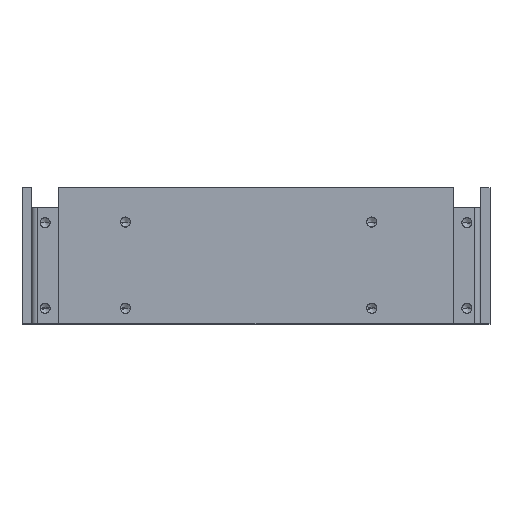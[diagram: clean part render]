
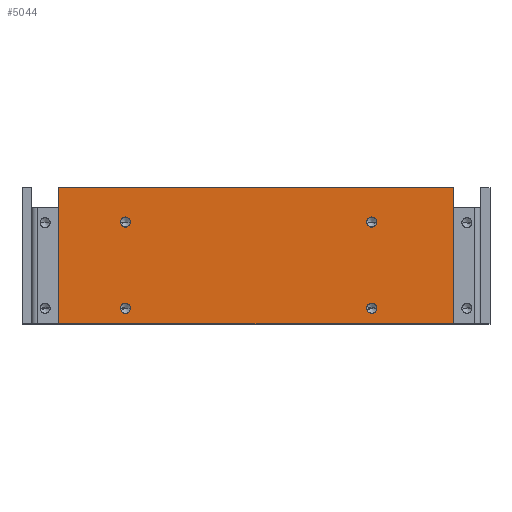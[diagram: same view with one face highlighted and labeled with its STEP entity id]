
A CAD part, top view. The second image highlights one B-rep face of the part: STEP entity #5044.
In plain terms, the highlighted planar face has unit normal (0, 0, 1).
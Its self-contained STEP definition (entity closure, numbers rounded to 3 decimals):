
#97 = ORIENTED_EDGE ( 'NONE', *, *, #6554, .T. ) ;
#116 = DIRECTION ( 'NONE',  ( 1., 0., 0. ) ) ;
#165 = VECTOR ( 'NONE', #5381, 1000. ) ;
#221 = EDGE_CURVE ( 'NONE', #658, #10466, #4469, .T. ) ;
#342 = CIRCLE ( 'NONE', #8468, 0.825 ) ;
#378 = EDGE_CURVE ( 'NONE', #6541, #6681, #2196, .T. ) ;
#424 = VERTEX_POINT ( 'NONE', #6625 ) ;
#658 = VERTEX_POINT ( 'NONE', #4552 ) ;
#1041 = DIRECTION ( 'NONE',  ( 1., 0., 0. ) ) ;
#1053 = CARTESIAN_POINT ( 'NONE',  ( 0., -6.2, 38. ) ) ;
#1064 = CIRCLE ( 'NONE', #4583, 0.825 ) ;
#1066 = AXIS2_PLACEMENT_3D ( 'NONE', #9721, #1820, #7172 ) ;
#1255 = EDGE_CURVE ( 'NONE', #9435, #9432, #6976, .T. ) ;
#1522 = CARTESIAN_POINT ( 'NONE',  ( -22.025, -5.6, 38. ) ) ;
#1524 = EDGE_LOOP ( 'NONE', ( #10629, #3521 ) ) ;
#1595 = DIRECTION ( 'NONE',  ( 1., 0., 0. ) ) ;
#1754 = VERTEX_POINT ( 'NONE', #10449 ) ;
#1820 = DIRECTION ( 'NONE',  ( 0., 0., 1. ) ) ;
#1863 = CARTESIAN_POINT ( 'NONE',  ( -32., 0., 38. ) ) ;
#2020 = AXIS2_PLACEMENT_3D ( 'NONE', #3092, #2218, #7272 ) ;
#2037 = FACE_BOUND ( 'NONE', #9831, .T. ) ;
#2103 = EDGE_CURVE ( 'NONE', #8664, #11122, #9727, .T. ) ;
#2196 = LINE ( 'NONE', #7202, #2821 ) ;
#2218 = DIRECTION ( 'NONE',  ( 0., 0., 1. ) ) ;
#2268 = AXIS2_PLACEMENT_3D ( 'NONE', #4506, #9583, #1041 ) ;
#2298 = EDGE_CURVE ( 'NONE', #6681, #1754, #3949, .T. ) ;
#2322 = CIRCLE ( 'NONE', #11161, 0.825 ) ;
#2388 = DIRECTION ( 'NONE',  ( 1., 0., 0. ) ) ;
#2584 = DIRECTION ( 'NONE',  ( 1., 0., 0. ) ) ;
#2821 = VECTOR ( 'NONE', #9865, 1000. ) ;
#2859 = VECTOR ( 'NONE', #10989, 1000. ) ;
#2884 = ORIENTED_EDGE ( 'NONE', *, *, #8443, .F. ) ;
#3092 = CARTESIAN_POINT ( 'NONE',  ( -21.2, -19.6, 38. ) ) ;
#3165 = ORIENTED_EDGE ( 'NONE', *, *, #378, .F. ) ;
#3177 = ORIENTED_EDGE ( 'NONE', *, *, #221, .F. ) ;
#3521 = ORIENTED_EDGE ( 'NONE', *, *, #9705, .F. ) ;
#3642 = VECTOR ( 'NONE', #4160, 1000. ) ;
#3767 = FACE_BOUND ( 'NONE', #8747, .T. ) ;
#3770 = AXIS2_PLACEMENT_3D ( 'NONE', #10791, #7955, #10851 ) ;
#3802 = ORIENTED_EDGE ( 'NONE', *, *, #2298, .F. ) ;
#3949 = LINE ( 'NONE', #7333, #2859 ) ;
#3988 = LINE ( 'NONE', #10150, #3642 ) ;
#4022 = VERTEX_POINT ( 'NONE', #8488 ) ;
#4160 = DIRECTION ( 'NONE',  ( 0., 1., 0. ) ) ;
#4207 = CARTESIAN_POINT ( 'NONE',  ( 18.8, -5.6, 38. ) ) ;
#4295 = EDGE_CURVE ( 'NONE', #424, #5483, #5962, .T. ) ;
#4469 = CIRCLE ( 'NONE', #2268, 0.825 ) ;
#4497 = DIRECTION ( 'NONE',  ( 0., 0., 1. ) ) ;
#4506 = CARTESIAN_POINT ( 'NONE',  ( 18.8, -5.6, 38. ) ) ;
#4510 = EDGE_LOOP ( 'NONE', ( #9720, #9903 ) ) ;
#4552 = CARTESIAN_POINT ( 'NONE',  ( 17.975, -5.6, 38. ) ) ;
#4583 = AXIS2_PLACEMENT_3D ( 'NONE', #4207, #5219, #1595 ) ;
#4588 = ORIENTED_EDGE ( 'NONE', *, *, #7874, .F. ) ;
#4868 = CARTESIAN_POINT ( 'NONE',  ( -21.2, -5.6, 38. ) ) ;
#4971 = CARTESIAN_POINT ( 'NONE',  ( -20.375, -5.6, 38. ) ) ;
#5044 = ADVANCED_FACE ( 'NONE', ( #5595, #2037, #5503, #3767, #6300 ), #6357, .T. ) ;
#5219 = DIRECTION ( 'NONE',  ( 0., 0., 1. ) ) ;
#5381 = DIRECTION ( 'NONE',  ( 1., 0., 0. ) ) ;
#5483 = VERTEX_POINT ( 'NONE', #6342 ) ;
#5503 = FACE_BOUND ( 'NONE', #4510, .T. ) ;
#5595 = FACE_BOUND ( 'NONE', #1524, .T. ) ;
#5708 = CARTESIAN_POINT ( 'NONE',  ( 32., -22.1, 38. ) ) ;
#5864 = DIRECTION ( 'NONE',  ( 0., 0., 1. ) ) ;
#5962 = CIRCLE ( 'NONE', #3770, 0.825 ) ;
#6046 = CARTESIAN_POINT ( 'NONE',  ( -32., -22.1, 38. ) ) ;
#6192 = CARTESIAN_POINT ( 'NONE',  ( -22.025, -19.6, 38. ) ) ;
#6272 = CARTESIAN_POINT ( 'NONE',  ( 18.8, -19.6, 38. ) ) ;
#6300 = FACE_OUTER_BOUND ( 'NONE', #9035, .T. ) ;
#6342 = CARTESIAN_POINT ( 'NONE',  ( 17.975, -19.6, 38. ) ) ;
#6357 = PLANE ( 'NONE',  #9460 ) ;
#6541 = VERTEX_POINT ( 'NONE', #5708 ) ;
#6554 = EDGE_CURVE ( 'NONE', #6541, #4022, #3988, .T. ) ;
#6625 = CARTESIAN_POINT ( 'NONE',  ( 19.625, -19.6, 38. ) ) ;
#6681 = VERTEX_POINT ( 'NONE', #6046 ) ;
#6716 = CARTESIAN_POINT ( 'NONE',  ( -21.2, -19.6, 38. ) ) ;
#6976 = CIRCLE ( 'NONE', #2020, 0.825 ) ;
#7168 = EDGE_CURVE ( 'NONE', #10466, #658, #1064, .T. ) ;
#7172 = DIRECTION ( 'NONE',  ( 1., 0., 0. ) ) ;
#7202 = CARTESIAN_POINT ( 'NONE',  ( 0., -22.1, 38. ) ) ;
#7272 = DIRECTION ( 'NONE',  ( 1., 0., 0. ) ) ;
#7333 = CARTESIAN_POINT ( 'NONE',  ( -32., -6.2, 38. ) ) ;
#7463 = CARTESIAN_POINT ( 'NONE',  ( 19.625, -5.6, 38. ) ) ;
#7874 = EDGE_CURVE ( 'NONE', #9432, #9435, #342, .T. ) ;
#7955 = DIRECTION ( 'NONE',  ( 0., 0., 1. ) ) ;
#8259 = DIRECTION ( 'NONE',  ( 0., 0., 1. ) ) ;
#8443 = EDGE_CURVE ( 'NONE', #1754, #4022, #9814, .T. ) ;
#8468 = AXIS2_PLACEMENT_3D ( 'NONE', #6716, #5864, #2584 ) ;
#8488 = CARTESIAN_POINT ( 'NONE',  ( 32., 0., 38. ) ) ;
#8664 = VERTEX_POINT ( 'NONE', #4971 ) ;
#8742 = DIRECTION ( 'NONE',  ( 0., 0., 1. ) ) ;
#8747 = EDGE_LOOP ( 'NONE', ( #9089, #3177 ) ) ;
#9035 = EDGE_LOOP ( 'NONE', ( #97, #2884, #3802, #3165 ) ) ;
#9089 = ORIENTED_EDGE ( 'NONE', *, *, #7168, .F. ) ;
#9114 = AXIS2_PLACEMENT_3D ( 'NONE', #4868, #4497, #2388 ) ;
#9331 = ORIENTED_EDGE ( 'NONE', *, *, #1255, .F. ) ;
#9432 = VERTEX_POINT ( 'NONE', #9541 ) ;
#9435 = VERTEX_POINT ( 'NONE', #6192 ) ;
#9460 = AXIS2_PLACEMENT_3D ( 'NONE', #1053, #8259, #116 ) ;
#9541 = CARTESIAN_POINT ( 'NONE',  ( -20.375, -19.6, 38. ) ) ;
#9583 = DIRECTION ( 'NONE',  ( 0., 0., 1. ) ) ;
#9705 = EDGE_CURVE ( 'NONE', #11122, #8664, #11326, .T. ) ;
#9720 = ORIENTED_EDGE ( 'NONE', *, *, #4295, .F. ) ;
#9721 = CARTESIAN_POINT ( 'NONE',  ( -21.2, -5.6, 38. ) ) ;
#9727 = CIRCLE ( 'NONE', #1066, 0.825 ) ;
#9814 = LINE ( 'NONE', #1863, #165 ) ;
#9831 = EDGE_LOOP ( 'NONE', ( #4588, #9331 ) ) ;
#9865 = DIRECTION ( 'NONE',  ( -1., 0., 0. ) ) ;
#9903 = ORIENTED_EDGE ( 'NONE', *, *, #10129, .F. ) ;
#10129 = EDGE_CURVE ( 'NONE', #5483, #424, #2322, .T. ) ;
#10150 = CARTESIAN_POINT ( 'NONE',  ( 32., -6.2, 38. ) ) ;
#10449 = CARTESIAN_POINT ( 'NONE',  ( -32., 0., 38. ) ) ;
#10466 = VERTEX_POINT ( 'NONE', #7463 ) ;
#10629 = ORIENTED_EDGE ( 'NONE', *, *, #2103, .F. ) ;
#10791 = CARTESIAN_POINT ( 'NONE',  ( 18.8, -19.6, 38. ) ) ;
#10851 = DIRECTION ( 'NONE',  ( 1., 0., 0. ) ) ;
#10989 = DIRECTION ( 'NONE',  ( 0., 1., 0. ) ) ;
#11122 = VERTEX_POINT ( 'NONE', #1522 ) ;
#11161 = AXIS2_PLACEMENT_3D ( 'NONE', #6272, #8742, #11351 ) ;
#11326 = CIRCLE ( 'NONE', #9114, 0.825 ) ;
#11351 = DIRECTION ( 'NONE',  ( 1., 0., 0. ) ) ;
